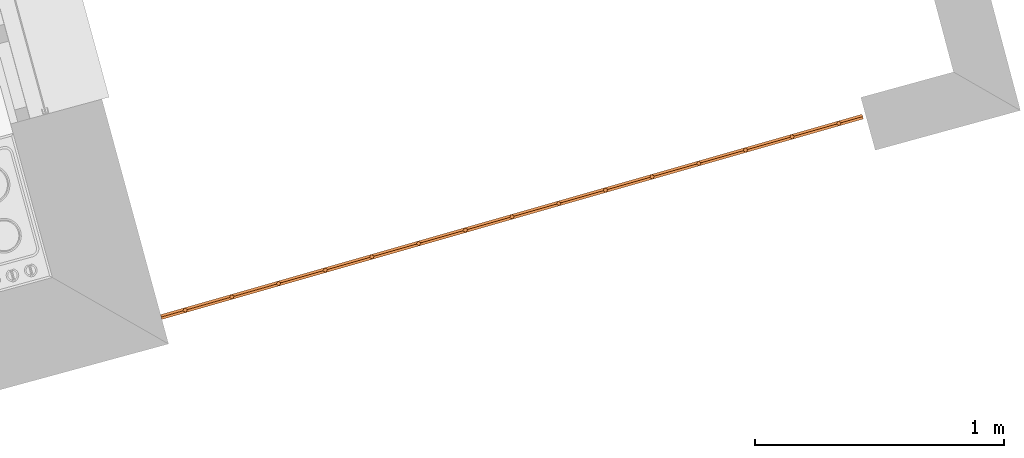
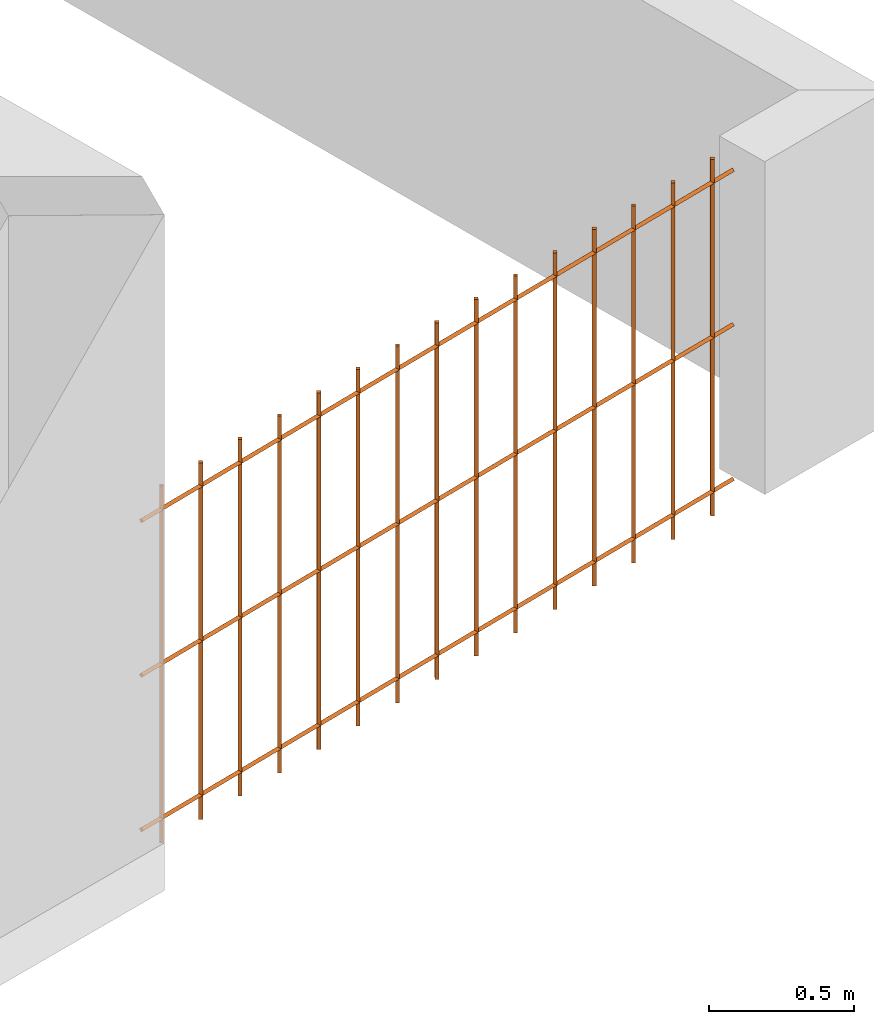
# One storey, part 192 of 195: 1 proxy.
"""IFC2X3 building model written with IfcOpenShell, lengths in metres."""

import ifcopenshell
import ifcopenshell.guid

model = None  # the IFC model being written
_history = None  # IfcOwnerHistory: only IFC2X3 demands one
_inside = {}  # id of a spatial element -> (the spatial element, [elements in it])
_under = {}  # id of a project, library or spatial element -> (it, [spatial elements below it])
_declared = {}  # id of a project -> (the project, [libraries it declares])
_typed = {}  # id of a type object -> (the type object, [elements of that type])
_made_of = {}  # id of a material, layer set ... -> (it, [elements and type objects made of it])


def new_model(schema):
    """Start an empty IFC model of exactly this schema.

    Asked for "IFC4X3", IfcOpenShell would pick the latest addendum, in which some entities
    have other attributes; the version numbers below select the first issue.
    IFC2X3 requires an IfcOwnerHistory on every rooted entity: one is made here for all.
    """
    global model, _history
    if schema == "IFC4X3":
        model = ifcopenshell.file(schema_version=(4, 3, 0, 0))
    else:
        model = ifcopenshell.file(schema=schema)
    _inside.clear()
    _under.clear()
    _declared.clear()
    _typed.clear()
    _made_of.clear()
    _history = None
    if model.schema == "IFC2X3":
        org = make("IfcOrganization", Name="unknown")
        user = make(
            "IfcPersonAndOrganization",
            ThePerson=make("IfcPerson", FamilyName="unknown"),
            TheOrganization=org,
        )
        app = make(
            "IfcApplication",
            ApplicationDeveloper=org,
            Version="unknown",
            ApplicationFullName="unknown",
            ApplicationIdentifier="unknown",
        )
        _history = make(
            "IfcOwnerHistory",
            OwningUser=user,
            OwningApplication=app,
            ChangeAction="ADDED",
            CreationDate=0,
        )
    return model


def make(cls, **values):
    """One entity of the class cls with the attributes given. An attribute that is None is left unset."""
    return model.create_entity(
        cls, **{name: value for name, value in values.items() if value is not None}
    )


def entity(cls, *values):
    """Any entity or typed value of the class cls, its attributes in the order of the schema. None: left unset."""
    e = model.create_entity(cls)
    for i, value in enumerate(values):
        if value is not None:
            e[i] = value
    return e


def rooted(cls, **values):
    """An entity with a GlobalId (a new one), such as an element, a storey or a relation."""
    return make(cls, GlobalId=ifcopenshell.guid.new(), OwnerHistory=_history, **values)


def si_unit(unit_type, name, prefix=None):
    """IfcSIUnit, for example si_unit("LENGTHUNIT", "METRE", prefix="MILLI")."""
    return make("IfcSIUnit", UnitType=unit_type, Prefix=prefix, Name=name)


def converted_unit(unit_type, name, factor, base, dimensions=None, offset=None):
    """IfcConversionBasedUnit, such as the inch: factor (a typed value) times the base unit."""
    return make(
        "IfcConversionBasedUnit"
        if offset is None
        else "IfcConversionBasedUnitWithOffset",
        ConversionOffset=offset,
        Dimensions=None
        if dimensions is None
        else entity("IfcDimensionalExponents", *dimensions),
        UnitType=unit_type,
        Name=name,
        ConversionFactor=make(
            "IfcMeasureWithUnit", ValueComponent=factor, UnitComponent=base
        ),
    )


def derived_unit(unit_type, elements):
    """IfcDerivedUnit: a product of units, each with its exponent."""
    return make(
        "IfcDerivedUnit",
        Elements=[
            make("IfcDerivedUnitElement", Unit=unit, Exponent=power)
            for unit, power in elements
        ],
        UnitType=unit_type,
    )


def money_unit(currency):
    """IfcMonetaryUnit."""
    return make("IfcMonetaryUnit", Currency=currency)


def assignment(units):
    """IfcUnitAssignment: the units of a project."""
    return None if units is None else make("IfcUnitAssignment", Units=units)


def point(xyz):
    """IfcCartesianPoint."""
    return None if xyz is None else make("IfcCartesianPoint", Coordinates=xyz)


def direction(xyz):
    """IfcDirection."""
    return None if xyz is None else make("IfcDirection", DirectionRatios=xyz)


def frame(location, z_axis=None, x_axis=None):
    """IfcAxis2Placement3D, a coordinate frame: its origin and axes. An axis left out is left unset."""
    return make(
        "IfcAxis2Placement3D",
        Location=point(location),
        Axis=direction(z_axis),
        RefDirection=direction(x_axis),
    )


def origin_with_axes():
    """The frame at (0, 0, 0) with the z axis (0, 0, 1) and the x axis (1, 0, 0) written out."""
    return frame((0.0, 0.0, 0.0), z_axis=(0.0, 0.0, 1.0), x_axis=(1.0, 0.0, 0.0))


def place(relative_to, where):
    """IfcLocalPlacement: puts the frame where relative to a parent placement (None: the world)."""
    return make(
        "IfcLocalPlacement", PlacementRelTo=relative_to, RelativePlacement=where
    )


def context(
    kind, dimensions, precision=None, world=None, true_north=None, identifier=None
):
    """IfcGeometricRepresentationContext, for example the 3D "Model" context."""
    return make(
        "IfcGeometricRepresentationContext",
        ContextIdentifier=identifier,
        ContextType=kind,
        CoordinateSpaceDimension=dimensions,
        Precision=precision,
        WorldCoordinateSystem=world,
        TrueNorth=true_north,
    )


def subcontext(parent, identifier, kind, view, scale=None):
    """IfcGeometricRepresentationSubContext, for example "Body" below "Model"."""
    return make(
        "IfcGeometricRepresentationSubContext",
        ContextIdentifier=identifier,
        ContextType=kind,
        ParentContext=parent,
        TargetScale=scale,
        TargetView=view,
    )


def project(units=None, contexts=None):
    """IfcProject with its units and contexts."""
    return rooted(
        "IfcProject",
        Name="project",
        RepresentationContexts=contexts,
        UnitsInContext=assignment(units),
    )


def spatial(cls, under=None, at=None, **own):
    """A site, building, storey or space (cls), placed at a placement, below another one or the project."""
    s = rooted(cls, ObjectPlacement=at, **own)
    if under is not None:
        _under.setdefault(under.id(), (under, []))[1].append(s)
    return s


def faces_of(points, faces, orient=None, outer=None):
    """IfcFace entities. A face is a list of loops; a loop is a list of indices into points, from 0.

    orient and outer hold one flag for each loop. By default every Orientation is true, the
    first loop of a face is its IfcFaceOuterBound and the others are IfcFaceBound.
    """
    made = []
    for i, loops in enumerate(faces):
        bounds = []
        for j, loop in enumerate(loops):
            is_outer = j == 0 if outer is None else outer[i][j]
            bounds.append(
                make(
                    "IfcFaceOuterBound" if is_outer else "IfcFaceBound",
                    Bound=make("IfcPolyLoop", Polygon=[points[k] for k in loop]),
                    Orientation=True if orient is None else orient[i][j],
                )
            )
        made.append(make("IfcFace", Bounds=bounds))
    return made


def faceted_brep(points, faces, orient=None, outer=None, voids=None):
    """IfcFacetedBrep: a solid bounded by flat faces; with voids (closed shells), ...WithVoids."""
    shared = [point(p) for p in points]
    hull = make("IfcClosedShell", CfsFaces=faces_of(shared, faces, orient, outer))
    if voids is None:
        return make("IfcFacetedBrep", Outer=hull)
    return make(
        "IfcFacetedBrepWithVoids",
        Outer=hull,
        Voids=[
            make(cls, CfsFaces=faces_of(shared, fs, o, b)) for cls, fs, o, b in voids
        ],
    )


def shape(context_of_items, identifier, shape_type, items):
    """IfcShapeRepresentation: the items that make up one representation, for example the "Body"."""
    return make(
        "IfcShapeRepresentation",
        ContextOfItems=context_of_items,
        RepresentationIdentifier=identifier,
        RepresentationType=shape_type,
        Items=items,
    )


def made_of(thing, what):
    """Note that an element or type object is made of a material, layer set ...; save() writes the relation."""
    if what is not None:
        _made_of.setdefault(what.id(), (what, []))[1].append(thing)
    return thing


def type_object(cls, material=None, **own):
    """A type object (cls), such as IfcWallType, which elements share."""
    return made_of(rooted(cls, **own), material)


def element(
    cls,
    number,
    at=None,
    inside=None,
    cuts=None,
    type_object=None,
    material=None,
    context=None,
    identifier="Body",
    shape_type=None,
    held_by="IfcProductDefinitionShape",
    body=None,
    shapes=None,
    **own,
):
    """One element of the class cls, such as IfcWall. Its Tag is "e" and its number.

    at: its placement. inside: the storey or other place that contains it. cuts: it is an
    opening in that element (IfcRelVoidsElement). A single representation is given by context,
    identifier, shape_type and body (its items); several are given by shapes. held_by: the class
    of the entity that holds the representations. save() writes the other relations.
    """
    e = rooted(cls, Tag="e%d" % number, ObjectPlacement=at, **own)
    if body is not None:
        shapes = [shape(context, identifier, shape_type, body)]
    if shapes is not None:
        e.Representation = make(held_by, Representations=shapes)
    if inside is not None:
        _inside.setdefault(inside.id(), (inside, []))[1].append(e)
    if cuts is not None:
        rooted(
            "IfcRelVoidsElement", RelatingBuildingElement=cuts, RelatedOpeningElement=e
        )
    if type_object is not None:
        _typed.setdefault(type_object.id(), (type_object, []))[1].append(e)
    return made_of(e, material)


def aggregate(whole, parts):
    """IfcRelAggregates: a whole, such as a stair, and the parts it consists of."""
    return rooted("IfcRelAggregates", RelatingObject=whole, RelatedObjects=parts)


def save(model, path):
    """Write the relations noted so far, then the file.

    IfcRelAggregates (storeys below a building ...), IfcRelContainedInSpatialStructure (elements
    in a storey), IfcRelDefinesByType, IfcRelAssociatesMaterial and IfcRelDeclares: one each for
    every whole, place, type object, material and project.
    """
    for whole, parts in _under.values():
        aggregate(whole, parts)
    for where, things in _inside.values():
        rooted(
            "IfcRelContainedInSpatialStructure",
            RelatedElements=things,
            RelatingStructure=where,
        )
    for kind, things in _typed.values():
        rooted("IfcRelDefinesByType", RelatedObjects=things, RelatingType=kind)
    for what, things in _made_of.values():
        rooted("IfcRelAssociatesMaterial", RelatedObjects=things, RelatingMaterial=what)
    for by, libraries in _declared.values():
        rooted("IfcRelDeclares", RelatingContext=by, RelatedDefinitions=libraries)
    model.write(path)


model = new_model("IFC2X3")

# Units and contexts
model_context = context("Model", 3, precision=1e-05, world=origin_with_axes(), true_north=direction((0.0, 1.0)))
body_context = subcontext(model_context, "Body", "Model", "MODEL_VIEW")
ifc_project = project(units=[si_unit("LENGTHUNIT", "METRE"), si_unit("AREAUNIT", "SQUARE_METRE"), si_unit("VOLUMEUNIT", "CUBIC_METRE"), converted_unit("PLANEANGLEUNIT", "DEGREE", entity("IfcPlaneAngleMeasure", 0.0174532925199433), si_unit("PLANEANGLEUNIT", "RADIAN"), dimensions=[0, 0, 0, 0, 0, 0, 0]), money_unit("CHF"), converted_unit("TIMEUNIT", "Year", entity("IfcTimeMeasure", 31557600.0), si_unit("TIMEUNIT", "SECOND"), dimensions=[0, 0, 1, 0, 0, 0, 0]), si_unit("MASSUNIT", "GRAM", prefix="KILO"), si_unit("THERMODYNAMICTEMPERATUREUNIT", "DEGREE_CELSIUS"), si_unit("LUMINOUSINTENSITYUNIT", "LUMEN"), si_unit("ENERGYUNIT", "JOULE", prefix="MEGA"), derived_unit("THERMALCONDUCTANCEUNIT", [(si_unit("POWERUNIT", "WATT"), 1), (si_unit("LENGTHUNIT", "METRE"), -1), (si_unit("THERMODYNAMICTEMPERATUREUNIT", "KELVIN"), -1)]), derived_unit("SPECIFICHEATCAPACITYUNIT", [(si_unit("ENERGYUNIT", "JOULE"), 1), (si_unit("MASSUNIT", "GRAM", prefix="KILO"), -1), (si_unit("THERMODYNAMICTEMPERATUREUNIT", "KELVIN"), -1)]), derived_unit("MASSDENSITYUNIT", [(si_unit("MASSUNIT", "GRAM", prefix="KILO"), 1), (si_unit("VOLUMEUNIT", "CUBIC_METRE"), -1)])], contexts=[model_context])

# Site, building, storey
site_placement = place(None, origin_with_axes())
site = spatial("IfcSite", under=ifc_project, at=site_placement, Name="Site", CompositionType="ELEMENT")
building_placement = place(site_placement, origin_with_axes())
building = spatial("IfcBuilding", under=site, at=building_placement, Name="Bâtiment", CompositionType="ELEMENT")
storey_placement = place(building_placement, origin_with_axes())
storey = spatial("IfcBuildingStorey", under=building, at=storey_placement, Name="rdc", CompositionType="ELEMENT", Elevation=0.0)

# Proxy
building_element_proxy_type = type_object("IfcBuildingElementProxyType", Name="Grille anti-effraction", PredefinedType="NOTDEFINED")
proxy_placement = place(storey_placement, frame((9598.519984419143, -1056.903927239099, 57.6), z_axis=(0.0, 0.0, 1.0), x_axis=(-0.9615011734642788, -0.2748008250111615, 0.0)))
element("IfcBuildingElementProxy", 1, at=proxy_placement, inside=storey, type_object=building_element_proxy_type, Name="Obj.-010", context=body_context, shape_type="Brep", body=[
    faceted_brep([(1.464954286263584, -0.01, 0.1), (1.464954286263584, 0.0, 0.09000000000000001), (1.464954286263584, 0.01, 0.1), (1.464954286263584, 0.0, 0.11), (-1.464954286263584, -0.01, 0.1000000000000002), (-1.464954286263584, 0.0, 0.09000000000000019), (-1.464954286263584, 0.01, 0.1000000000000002), (-1.464954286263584, 0.0, 0.1100000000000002)], [[[0, 1, 2, 3]], [[0, 4, 5, 1]], [[1, 5, 6, 2]], [[2, 6, 7, 3]], [[3, 7, 4, 0]], [[4, 7, 6, 5]]]),
    faceted_brep([(1.464954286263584, -0.01, 0.75), (1.464954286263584, 0.0, 0.74), (1.464954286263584, 0.01, 0.75), (1.464954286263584, 0.0, 0.76), (-1.464954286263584, -0.01, 0.7500000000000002), (-1.464954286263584, 0.0, 0.7400000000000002), (-1.464954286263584, 0.01, 0.7500000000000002), (-1.464954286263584, 0.0, 0.7600000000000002)], [[[0, 1, 2, 3]], [[0, 4, 5, 1]], [[1, 5, 6, 2]], [[2, 6, 7, 3]], [[3, 7, 4, 0]], [[4, 7, 6, 5]]]),
    faceted_brep([(1.464954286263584, -0.01, 1.4), (1.464954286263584, 0.0, 1.39), (1.464954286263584, 0.01, 1.4), (1.464954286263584, 0.0, 1.41), (-1.464954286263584, -0.01, 1.4), (-1.464954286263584, 0.0, 1.39), (-1.464954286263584, 0.01, 1.4), (-1.464954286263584, 0.0, 1.41)], [[[0, 1, 2, 3]], [[0, 4, 5, 1]], [[1, 5, 6, 2]], [[2, 6, 7, 3]], [[3, 7, 4, 0]], [[4, 7, 6, 5]]]),
    faceted_brep([(1.364954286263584, -0.01, 0.0), (1.354954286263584, 0.0, 0.0), (1.364954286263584, 0.01, 0.0), (1.374954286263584, 0.0, 0.0), (1.364954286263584, -0.01, 1.5), (1.354954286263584, 0.0, 1.5), (1.364954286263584, 0.01, 1.5), (1.374954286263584, 0.0, 1.5)], [[[0, 1, 2, 3]], [[0, 4, 5, 1]], [[1, 5, 6, 2]], [[2, 6, 7, 3]], [[3, 7, 4, 0]], [[4, 7, 6, 5]]]),
    faceted_brep([(1.169960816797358, -0.01, 0.0), (1.159960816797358, 0.0, 0.0), (1.169960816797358, 0.01, 0.0), (1.179960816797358, 0.0, 0.0), (1.169960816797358, -0.01, 1.5), (1.159960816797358, 0.0, 1.5), (1.169960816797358, 0.01, 1.5), (1.179960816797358, 0.0, 1.5)], [[[0, 1, 2, 3]], [[0, 4, 5, 1]], [[1, 5, 6, 2]], [[2, 6, 7, 3]], [[3, 7, 4, 0]], [[4, 7, 6, 5]]]),
    faceted_brep([(0.9749673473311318, -0.01, 0.0), (0.9649673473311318, 0.0, 0.0), (0.9749673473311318, 0.01, 0.0), (0.9849673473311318, 0.0, 0.0), (0.9749673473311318, -0.01, 1.5), (0.9649673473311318, 0.0, 1.5), (0.9749673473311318, 0.01, 1.5), (0.9849673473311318, 0.0, 1.5)], [[[0, 1, 2, 3]], [[0, 4, 5, 1]], [[1, 5, 6, 2]], [[2, 6, 7, 3]], [[3, 7, 4, 0]], [[4, 7, 6, 5]]]),
    faceted_brep([(0.7799738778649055, -0.01, 0.0), (0.7699738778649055, 0.0, 0.0), (0.7799738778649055, 0.01, 0.0), (0.7899738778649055, 0.0, 0.0), (0.7799738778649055, -0.01, 1.5), (0.7699738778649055, 0.0, 1.5), (0.7799738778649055, 0.01, 1.5), (0.7899738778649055, 0.0, 1.5)], [[[0, 1, 2, 3]], [[0, 4, 5, 1]], [[1, 5, 6, 2]], [[2, 6, 7, 3]], [[3, 7, 4, 0]], [[4, 7, 6, 5]]]),
    faceted_brep([(0.5849804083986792, -0.01, 0.0), (0.5749804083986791, 0.0, 0.0), (0.5849804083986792, 0.01, 0.0), (0.5949804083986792, 0.0, 0.0), (0.5849804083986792, -0.01, 1.5), (0.5749804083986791, 0.0, 1.5), (0.5849804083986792, 0.01, 1.5), (0.5949804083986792, 0.0, 1.5)], [[[0, 1, 2, 3]], [[0, 4, 5, 1]], [[1, 5, 6, 2]], [[2, 6, 7, 3]], [[3, 7, 4, 0]], [[4, 7, 6, 5]]]),
    faceted_brep([(0.3899869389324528, -0.01, 0.0), (0.3799869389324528, 0.0, 0.0), (0.3899869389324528, 0.01, 0.0), (0.3999869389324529, 0.0, 0.0), (0.3899869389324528, -0.01, 1.5), (0.3799869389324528, 0.0, 1.5), (0.3899869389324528, 0.01, 1.5), (0.3999869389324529, 0.0, 1.5)], [[[0, 1, 2, 3]], [[0, 4, 5, 1]], [[1, 5, 6, 2]], [[2, 6, 7, 3]], [[3, 7, 4, 0]], [[4, 7, 6, 5]]]),
    faceted_brep([(0.1949934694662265, -0.01, 0.0), (0.1849934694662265, 0.0, 0.0), (0.1949934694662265, 0.01, 0.0), (0.2049934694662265, 0.0, 0.0), (0.1949934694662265, -0.01, 1.5), (0.1849934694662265, 0.0, 1.5), (0.1949934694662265, 0.01, 1.5), (0.2049934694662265, 0.0, 1.5)], [[[0, 1, 2, 3]], [[0, 4, 5, 1]], [[1, 5, 6, 2]], [[2, 6, 7, 3]], [[3, 7, 4, 0]], [[4, 7, 6, 5]]]),
    faceted_brep([(0.0, -0.01, 0.0), (-0.009999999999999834, 0.0, 0.0), (0.0, 0.01, 0.0), (0.01000000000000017, 0.0, 0.0), (0.0, -0.01, 1.5), (-0.009999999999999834, 0.0, 1.5), (0.0, 0.01, 1.5), (0.01000000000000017, 0.0, 1.5)], [[[0, 1, 2, 3]], [[0, 4, 5, 1]], [[1, 5, 6, 2]], [[2, 6, 7, 3]], [[3, 7, 4, 0]], [[4, 7, 6, 5]]]),
    faceted_brep([(-0.1949934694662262, -0.01, 0.0), (-0.2049934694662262, 0.0, 0.0), (-0.1949934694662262, 0.01, 0.0), (-0.1849934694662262, 0.0, 0.0), (-0.1949934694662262, -0.01, 1.5), (-0.2049934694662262, 0.0, 1.5), (-0.1949934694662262, 0.01, 1.5), (-0.1849934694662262, 0.0, 1.5)], [[[0, 1, 2, 3]], [[0, 4, 5, 1]], [[1, 5, 6, 2]], [[2, 6, 7, 3]], [[3, 7, 4, 0]], [[4, 7, 6, 5]]]),
    faceted_brep([(-0.3899869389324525, -0.01, 0.0), (-0.3999869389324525, 0.0, 0.0), (-0.3899869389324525, 0.01, 0.0), (-0.3799869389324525, 0.0, 0.0), (-0.3899869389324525, -0.01, 1.5), (-0.3999869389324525, 0.0, 1.5), (-0.3899869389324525, 0.01, 1.5), (-0.3799869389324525, 0.0, 1.5)], [[[0, 1, 2, 3]], [[0, 4, 5, 1]], [[1, 5, 6, 2]], [[2, 6, 7, 3]], [[3, 7, 4, 0]], [[4, 7, 6, 5]]]),
    faceted_brep([(-0.5849804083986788, -0.01, 0.0), (-0.5949804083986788, 0.0, 0.0), (-0.5849804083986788, 0.01, 0.0), (-0.5749804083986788, 0.0, 0.0), (-0.5849804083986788, -0.01, 1.5), (-0.5949804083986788, 0.0, 1.5), (-0.5849804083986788, 0.01, 1.5), (-0.5749804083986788, 0.0, 1.5)], [[[0, 1, 2, 3]], [[0, 4, 5, 1]], [[1, 5, 6, 2]], [[2, 6, 7, 3]], [[3, 7, 4, 0]], [[4, 7, 6, 5]]]),
    faceted_brep([(-0.7799738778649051, -0.01, 0.0), (-0.7899738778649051, 0.0, 0.0), (-0.7799738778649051, 0.01, 0.0), (-0.7699738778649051, 0.0, 0.0), (-0.7799738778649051, -0.01, 1.5), (-0.7899738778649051, 0.0, 1.5), (-0.7799738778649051, 0.01, 1.5), (-0.7699738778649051, 0.0, 1.5)], [[[0, 1, 2, 3]], [[0, 4, 5, 1]], [[1, 5, 6, 2]], [[2, 6, 7, 3]], [[3, 7, 4, 0]], [[4, 7, 6, 5]]]),
    faceted_brep([(-0.9749673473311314, -0.01, 0.0), (-0.9849673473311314, 0.0, 0.0), (-0.9749673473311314, 0.01, 0.0), (-0.9649673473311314, 0.0, 0.0), (-0.9749673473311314, -0.01, 1.5), (-0.9849673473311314, 0.0, 1.5), (-0.9749673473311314, 0.01, 1.5), (-0.9649673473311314, 0.0, 1.5)], [[[0, 1, 2, 3]], [[0, 4, 5, 1]], [[1, 5, 6, 2]], [[2, 6, 7, 3]], [[3, 7, 4, 0]], [[4, 7, 6, 5]]]),
    faceted_brep([(-1.169960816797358, -0.01, 0.0), (-1.179960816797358, 0.0, 0.0), (-1.169960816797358, 0.01, 0.0), (-1.159960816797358, 0.0, 0.0), (-1.169960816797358, -0.01, 1.5), (-1.179960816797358, 0.0, 1.5), (-1.169960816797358, 0.01, 1.5), (-1.159960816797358, 0.0, 1.5)], [[[0, 1, 2, 3]], [[0, 4, 5, 1]], [[1, 5, 6, 2]], [[2, 6, 7, 3]], [[3, 7, 4, 0]], [[4, 7, 6, 5]]]),
    faceted_brep([(-1.364954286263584, -0.01, 0.0), (-1.374954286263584, 0.0, 0.0), (-1.364954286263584, 0.01, 0.0), (-1.354954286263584, 0.0, 0.0), (-1.364954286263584, -0.01, 1.5), (-1.374954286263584, 0.0, 1.5), (-1.364954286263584, 0.01, 1.5), (-1.354954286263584, 0.0, 1.5)], [[[0, 1, 2, 3]], [[0, 4, 5, 1]], [[1, 5, 6, 2]], [[2, 6, 7, 3]], [[3, 7, 4, 0]], [[4, 7, 6, 5]]]),
])

save(model, "model.ifc")
